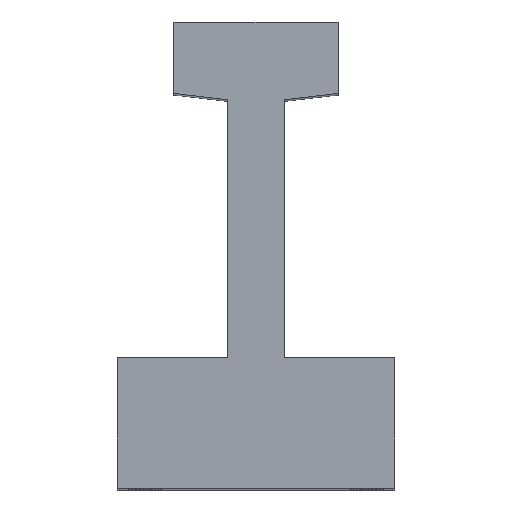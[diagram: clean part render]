
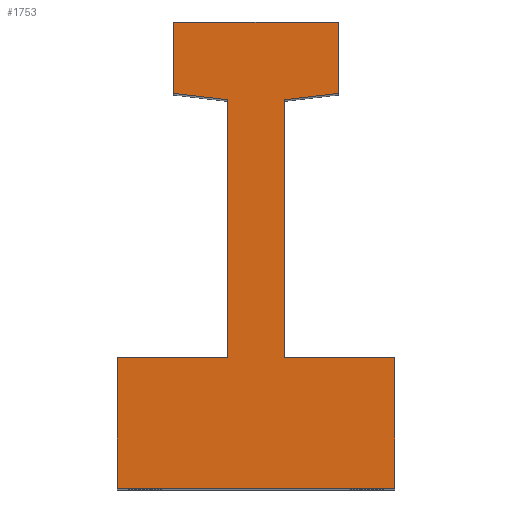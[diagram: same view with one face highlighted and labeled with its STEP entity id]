
A CAD part, top view. The second image highlights one B-rep face of the part: STEP entity #1753.
In plain terms, the highlighted planar face has unit normal (0, 0, 1).
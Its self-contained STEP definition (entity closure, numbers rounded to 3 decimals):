
#18 = DIRECTION ( 'NONE',  ( 0., 0., -1. ) ) ;
#33 = CARTESIAN_POINT ( 'NONE',  ( -17.5, 16.5, 121. ) ) ;
#79 = ORIENTED_EDGE ( 'NONE', *, *, #1437, .T. ) ;
#81 = ORIENTED_EDGE ( 'NONE', *, *, #463, .T. ) ;
#100 = DIRECTION ( 'NONE',  ( 0.993, -0.116, 0. ) ) ;
#122 = CARTESIAN_POINT ( 'NONE',  ( -10.4, 49.8, 121. ) ) ;
#124 = ORIENTED_EDGE ( 'NONE', *, *, #392, .T. ) ;
#139 = DIRECTION ( 'NONE',  ( 0., -1., 0. ) ) ;
#140 = VECTOR ( 'NONE', #194, 1000. ) ;
#168 = EDGE_CURVE ( 'NONE', #521, #1262, #532, .T. ) ;
#194 = DIRECTION ( 'NONE',  ( -1., 0., 0. ) ) ;
#206 = LINE ( 'NONE', #442, #1322 ) ;
#214 = VERTEX_POINT ( 'NONE', #122 ) ;
#228 = CARTESIAN_POINT ( 'NONE',  ( 10.4, 49.8, 121. ) ) ;
#240 = LINE ( 'NONE', #1406, #1695 ) ;
#288 = PLANE ( 'NONE',  #1592 ) ;
#310 = VECTOR ( 'NONE', #571, 1000. ) ;
#317 = LINE ( 'NONE', #734, #944 ) ;
#322 = VERTEX_POINT ( 'NONE', #1395 ) ;
#336 = CARTESIAN_POINT ( 'NONE',  ( -17.5, 0., 121. ) ) ;
#345 = EDGE_LOOP ( 'NONE', ( #655, #1306, #577, #538, #885, #124, #79, #772, #1158, #1478, #81, #1290 ) ) ;
#359 = EDGE_CURVE ( 'NONE', #1088, #521, #206, .T. ) ;
#375 = VECTOR ( 'NONE', #1581, 1000. ) ;
#380 = DIRECTION ( 'NONE',  ( -1., 0., 0. ) ) ;
#392 = EDGE_CURVE ( 'NONE', #1266, #322, #317, .T. ) ;
#442 = CARTESIAN_POINT ( 'NONE',  ( 17.5, 0., 121. ) ) ;
#448 = VECTOR ( 'NONE', #1100, 1000. ) ;
#451 = CARTESIAN_POINT ( 'NONE',  ( -17.5, 0., 121. ) ) ;
#463 = EDGE_CURVE ( 'NONE', #1354, #1519, #1344, .T. ) ;
#505 = LINE ( 'NONE', #451, #375 ) ;
#508 = CARTESIAN_POINT ( 'NONE',  ( 17.5, 16.5, 121. ) ) ;
#516 = CARTESIAN_POINT ( 'NONE',  ( -3.55, 16.5, 121. ) ) ;
#521 = VERTEX_POINT ( 'NONE', #1485 ) ;
#532 = LINE ( 'NONE', #1381, #448 ) ;
#538 = ORIENTED_EDGE ( 'NONE', *, *, #1828, .T. ) ;
#571 = DIRECTION ( 'NONE',  ( 0.993, 0.116, 0. ) ) ;
#577 = ORIENTED_EDGE ( 'NONE', *, *, #1196, .T. ) ;
#655 = ORIENTED_EDGE ( 'NONE', *, *, #359, .T. ) ;
#658 = EDGE_CURVE ( 'NONE', #1385, #1354, #781, .T. ) ;
#663 = VECTOR ( 'NONE', #139, 1000. ) ;
#709 = CARTESIAN_POINT ( 'NONE',  ( 10.4, 49.8, 121. ) ) ;
#710 = LINE ( 'NONE', #968, #805 ) ;
#717 = EDGE_CURVE ( 'NONE', #214, #1385, #710, .T. ) ;
#734 = CARTESIAN_POINT ( 'NONE',  ( 10.4, 58.8, 121. ) ) ;
#772 = ORIENTED_EDGE ( 'NONE', *, *, #1813, .T. ) ;
#781 = LINE ( 'NONE', #516, #1677 ) ;
#790 = VERTEX_POINT ( 'NONE', #1151 ) ;
#805 = VECTOR ( 'NONE', #100, 1000. ) ;
#871 = DIRECTION ( 'NONE',  ( 1., 0., 0. ) ) ;
#885 = ORIENTED_EDGE ( 'NONE', *, *, #1384, .T. ) ;
#886 = FACE_OUTER_BOUND ( 'NONE', #345, .T. ) ;
#925 = VERTEX_POINT ( 'NONE', #1188 ) ;
#944 = VECTOR ( 'NONE', #1007, 1000. ) ;
#968 = CARTESIAN_POINT ( 'NONE',  ( -3.55, 49., 121. ) ) ;
#987 = CARTESIAN_POINT ( 'NONE',  ( -10.4, 49.8, 121. ) ) ;
#1007 = DIRECTION ( 'NONE',  ( 0., 1., 0. ) ) ;
#1036 = EDGE_CURVE ( 'NONE', #1519, #1088, #505, .T. ) ;
#1051 = LINE ( 'NONE', #987, #663 ) ;
#1073 = LINE ( 'NONE', #709, #310 ) ;
#1088 = VERTEX_POINT ( 'NONE', #336 ) ;
#1100 = DIRECTION ( 'NONE',  ( 0., 1., 0. ) ) ;
#1106 = CARTESIAN_POINT ( 'NONE',  ( 3.55, 49., 121. ) ) ;
#1135 = DIRECTION ( 'NONE',  ( -1., 0., 0. ) ) ;
#1149 = CARTESIAN_POINT ( 'NONE',  ( -3.55, 16.5, 121. ) ) ;
#1151 = CARTESIAN_POINT ( 'NONE',  ( 3.55, 16.5, 121. ) ) ;
#1152 = CARTESIAN_POINT ( 'NONE',  ( 0., 0., 121. ) ) ;
#1158 = ORIENTED_EDGE ( 'NONE', *, *, #717, .T. ) ;
#1188 = CARTESIAN_POINT ( 'NONE',  ( -10.4, 58.8, 121. ) ) ;
#1196 = EDGE_CURVE ( 'NONE', #1262, #790, #1628, .T. ) ;
#1262 = VERTEX_POINT ( 'NONE', #508 ) ;
#1266 = VERTEX_POINT ( 'NONE', #228 ) ;
#1290 = ORIENTED_EDGE ( 'NONE', *, *, #1036, .T. ) ;
#1306 = ORIENTED_EDGE ( 'NONE', *, *, #168, .T. ) ;
#1320 = CARTESIAN_POINT ( 'NONE',  ( -10.4, 58.8, 121. ) ) ;
#1322 = VECTOR ( 'NONE', #871, 1000. ) ;
#1327 = DIRECTION ( 'NONE',  ( -1., 0., 0. ) ) ;
#1344 = LINE ( 'NONE', #1466, #140 ) ;
#1354 = VERTEX_POINT ( 'NONE', #1149 ) ;
#1375 = CARTESIAN_POINT ( 'NONE',  ( 3.55, 16.5, 121. ) ) ;
#1381 = CARTESIAN_POINT ( 'NONE',  ( 17.5, 16.5, 121. ) ) ;
#1384 = EDGE_CURVE ( 'NONE', #1711, #1266, #1073, .T. ) ;
#1385 = VERTEX_POINT ( 'NONE', #1520 ) ;
#1395 = CARTESIAN_POINT ( 'NONE',  ( 10.4, 58.8, 121. ) ) ;
#1406 = CARTESIAN_POINT ( 'NONE',  ( 3.55, 49., 121. ) ) ;
#1437 = EDGE_CURVE ( 'NONE', #322, #925, #1444, .T. ) ;
#1444 = LINE ( 'NONE', #1320, #1766 ) ;
#1466 = CARTESIAN_POINT ( 'NONE',  ( -17.5, 16.5, 121. ) ) ;
#1478 = ORIENTED_EDGE ( 'NONE', *, *, #658, .T. ) ;
#1485 = CARTESIAN_POINT ( 'NONE',  ( 17.5, 0., 121. ) ) ;
#1519 = VERTEX_POINT ( 'NONE', #33 ) ;
#1520 = CARTESIAN_POINT ( 'NONE',  ( -3.55, 49., 121. ) ) ;
#1523 = DIRECTION ( 'NONE',  ( 0., -1., 0. ) ) ;
#1581 = DIRECTION ( 'NONE',  ( 0., -1., 0. ) ) ;
#1589 = VECTOR ( 'NONE', #380, 1000. ) ;
#1592 = AXIS2_PLACEMENT_3D ( 'NONE', #1152, #18, #1135 ) ;
#1628 = LINE ( 'NONE', #1375, #1589 ) ;
#1677 = VECTOR ( 'NONE', #1523, 1000. ) ;
#1695 = VECTOR ( 'NONE', #1832, 1000. ) ;
#1711 = VERTEX_POINT ( 'NONE', #1106 ) ;
#1753 = ADVANCED_FACE ( 'NONE', ( #886 ), #288, .F. ) ;
#1766 = VECTOR ( 'NONE', #1327, 1000. ) ;
#1813 = EDGE_CURVE ( 'NONE', #925, #214, #1051, .T. ) ;
#1828 = EDGE_CURVE ( 'NONE', #790, #1711, #240, .T. ) ;
#1832 = DIRECTION ( 'NONE',  ( 0., 1., 0. ) ) ;
